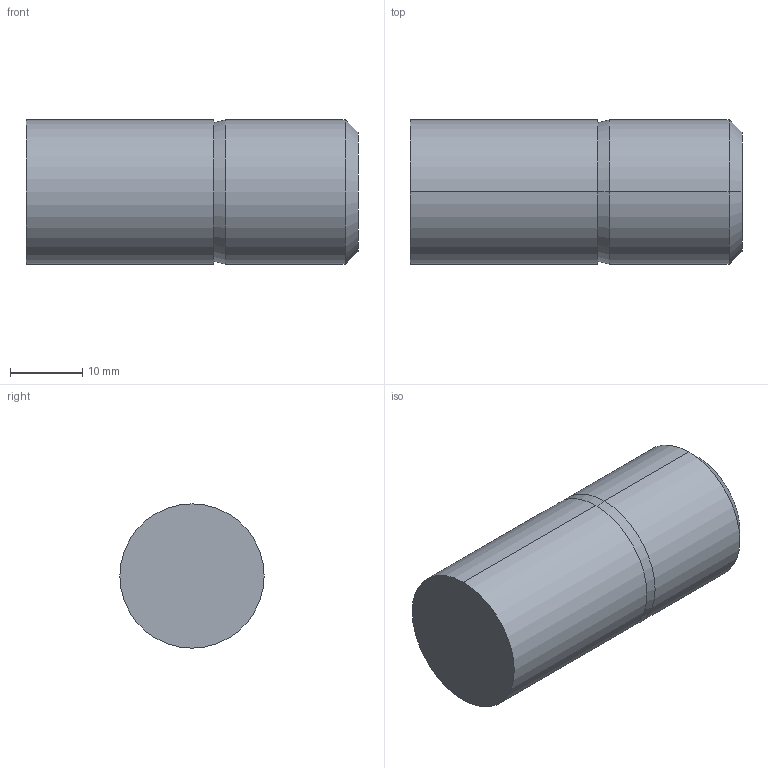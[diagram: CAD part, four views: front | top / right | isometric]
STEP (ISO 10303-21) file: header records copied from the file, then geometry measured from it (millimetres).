
FILE_DESCRIPTION (( 'STEP AP203' ), '1' );
FILE_NAME ('S3-20.STEP', '2002-08-16T10:49:27', ( '.' ), ( '.' ), 'SwSTEP 2.0', 'SolidWorks 2001340', '' );
FILE_SCHEMA (( 'CONFIG_CONTROL_DESIGN' ));
Length unit declared in the file: millimetre
Products named in the file (1): S3-20
Bounding box: 46 x 20 x 20 mm (x, y, z)
Volume: 14334.4 mm3; surface area: 3475.8 mm2
Topology: 1 solids, 1 shells, 11 faces, 20 edges, 12 vertices
Faces by surface type: cone 4, cylinder 4, plane 3
Entity records: 351 total; most frequent: DIRECTION 56, CARTESIAN_POINT 44, ORIENTED_EDGE 40, AXIS2_PLACEMENT_3D 24, EDGE_CURVE 20, EDGE_LOOP 12, VERTEX_POINT 12, CIRCLE 12
